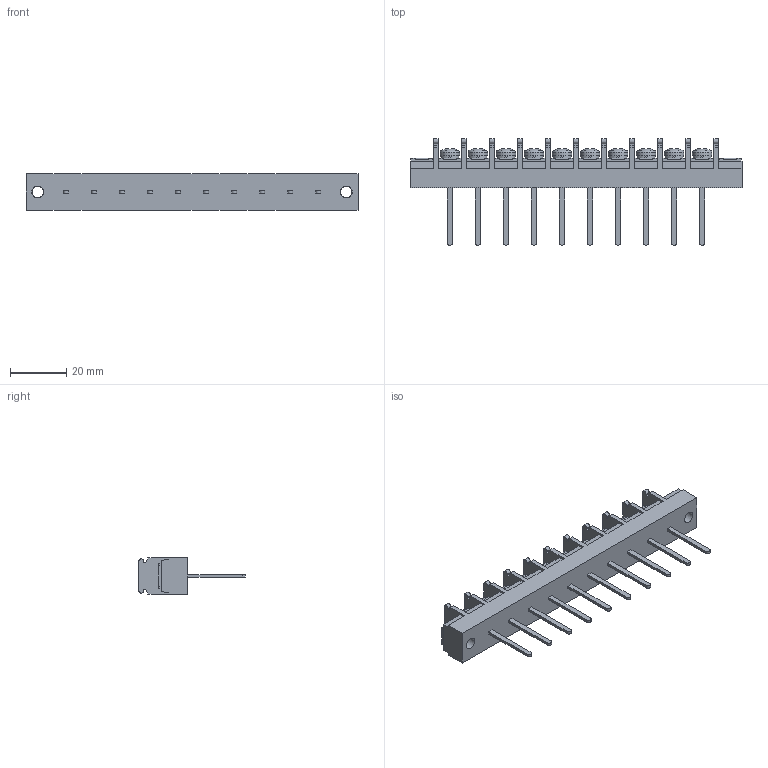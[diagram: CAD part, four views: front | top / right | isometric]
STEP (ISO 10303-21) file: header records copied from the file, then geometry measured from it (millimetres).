
FILE_DESCRIPTION(/* description */ ('Alibre Inc.'),/* implementation_level */ '2;1');
FILE_NAME(/* name */ 'export0',/* time_stamp */ '2015-10-17T19:35:31+09:00',/* author */ (''),/* organization */ (''),/* preprocessor_version */ 'ST-DEVELOPER v14',/* originating_system */ 'Alibre',/* authorisation */ '');
FILE_SCHEMA (('CONFIG_CONTROL_DESIGN'));
Length unit declared in the file: centimetre
Products named in the file (1): ID_1
Bounding box: 118.4 x 38 x 13 mm (x, y, z)
Volume: 17799.3 mm3; surface area: 11007.3 mm2
Topology: 1 solids, 17 shells, 1070 faces, 2918 edges, 1936 vertices
Faces by surface type: plane 806, bspline 104, cylinder 90, cone 40, torus 20, sphere 10
Full cylindrical faces by diameter (mm): 4 x12, 4.2 x2, 6.5 x10, 7 x10
Entity records: 32683 total; most frequent: CARTESIAN_POINT 7083, ORIENTED_EDGE 5684, DIRECTION 4162, EDGE_CURVE 2842, VECTOR 2094, LINE 2094, VERTEX_POINT 1904, AXIS2_PLACEMENT_3D 1437
